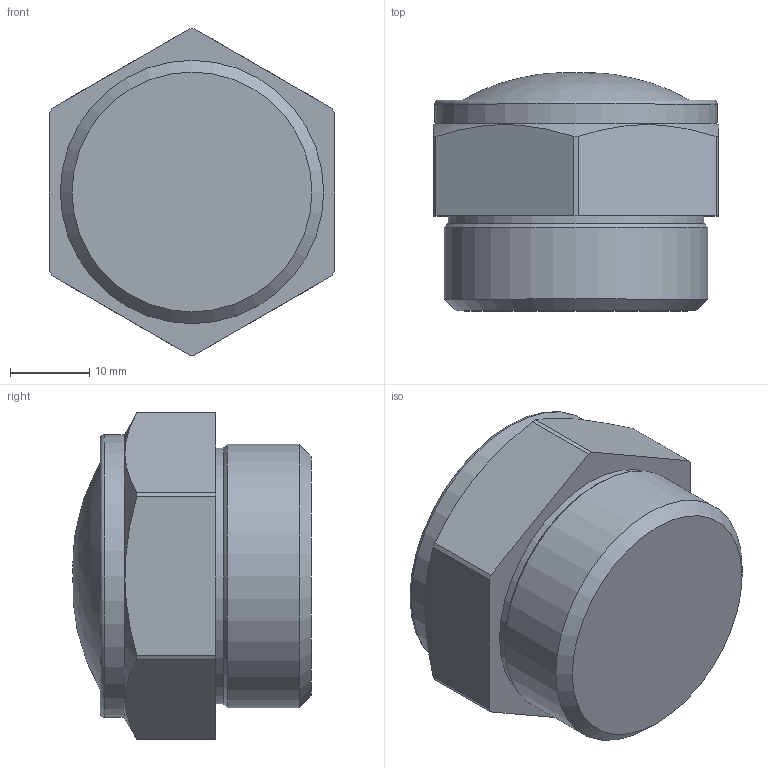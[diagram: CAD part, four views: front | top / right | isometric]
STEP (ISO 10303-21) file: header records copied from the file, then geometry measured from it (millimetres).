
FILE_DESCRIPTION( ( 'STEP AP214' ), '1' );
FILE_NAME( 'p:/temp/worker_7/temp/exporttempdir_4744_440_h2fkL/format_0/W0970530057.stp', '2021-12-09T08:50:15', ( 'License CC BY-ND 4.0' ), ( 'CADENAS' ), ' ', 'PARTsolutions', ' ' );
FILE_SCHEMA( ( 'AUTOMOTIVE_DESIGN { 1 0 10303 214 1 1 1 1 }' ) );
Length unit declared in the file: millimetre
Products named in the file (1): _W0970530057
Bounding box: 36 x 30.05 x 41.2 mm (x, y, z)
Volume: 27430.2 mm3; surface area: 5207 mm2
Topology: 1 solids, 1 shells, 24 faces, 56 edges, 36 vertices
Faces by surface type: plane 10, cylinder 9, cone 3, bspline 1, torus 1
Full cylindrical faces by diameter (mm): 32.3 x1, 33.249 x1, 35.657 x1
Entity records: 921 total; most frequent: CARTESIAN_POINT 199, DIRECTION 110, ORIENTED_EDGE 92, AXIS2_PLACEMENT_3D 46, EDGE_CURVE 46, VERTEX_POINT 35, EDGE_LOOP 34, FACE_OUTER_BOUND 28
